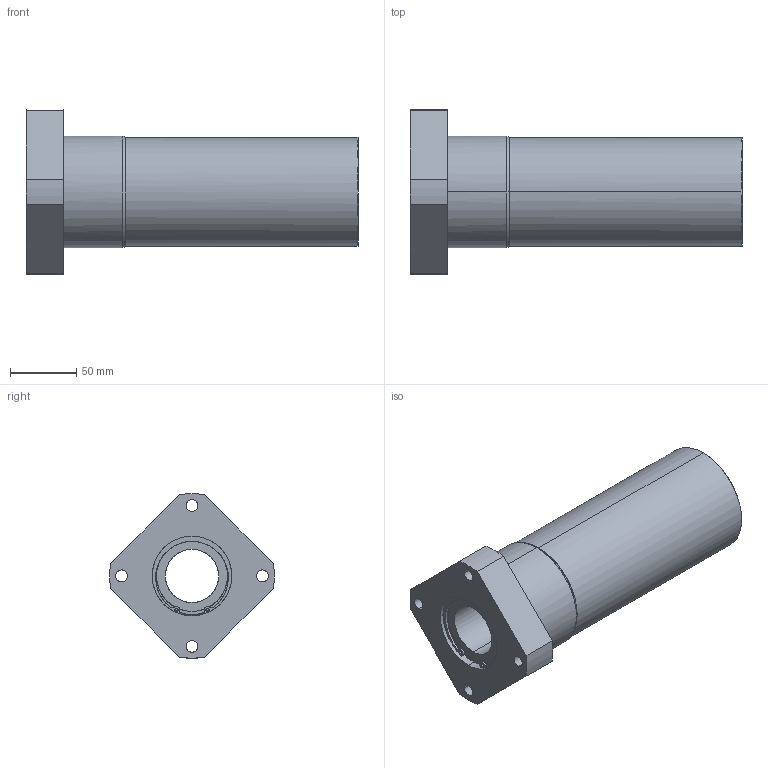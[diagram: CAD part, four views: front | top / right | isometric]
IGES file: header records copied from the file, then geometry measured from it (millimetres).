
Global section: file name: No Iges File Name specified; native system: AutoDesk Inventor R11.0; preprocessor: AutoDesk Inventor Iges Exporter R11.0; author: No Author specified; organization: No Organization specified; date: 20170922.135250; units: millimetre
Bounding box: 250 x 123.84 x 123.92 mm (x, y, z)
Surface area: 132389.5 mm2 (no closed solid volume)
Topology: 0 solids, 0 shells, 130 faces, 928 edges, 928 vertices
Faces by surface type: bspline 130
